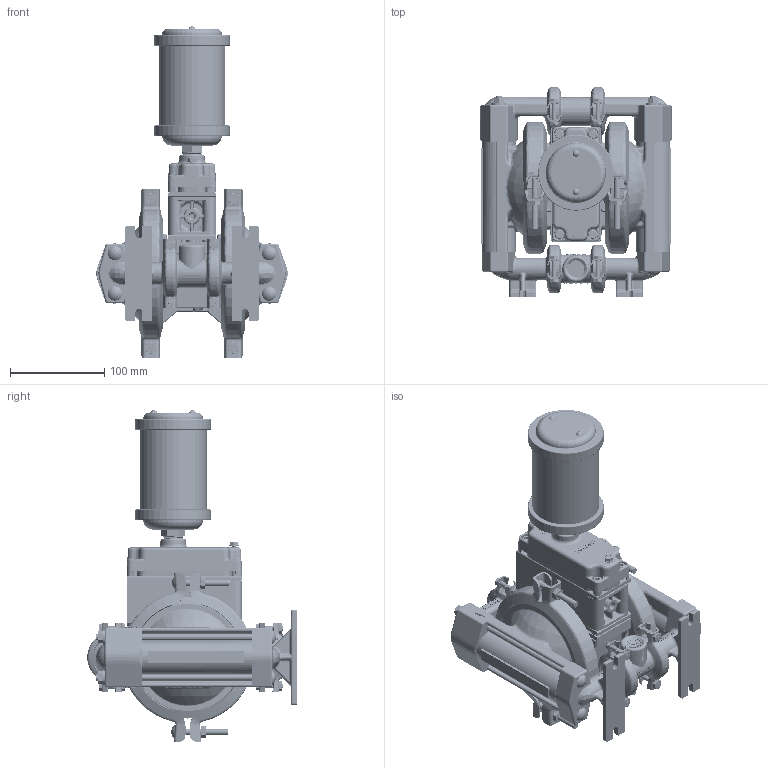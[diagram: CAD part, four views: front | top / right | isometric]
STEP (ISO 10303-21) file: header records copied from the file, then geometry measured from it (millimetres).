
FILE_DESCRIPTION (( 'STEP AP203' ), '1' );
FILE_NAME ('PS1_Clamped_SS_Top sld fill.STEP', '2022-05-18T12:32:04', ( '' ), ( '' ), 'SwSTEP 2.0', 'SolidWorks 2019', '' );
FILE_SCHEMA (( 'CONFIG_CONTROL_DESIGN' ));
Length unit declared in the file: millimetre
Products named in the file (1): PS1_Clamped_SS_Top sld fill
Bounding box: 203.61 x 222.76 x 352.55 mm (x, y, z)
Volume: 2992653.9 mm3; surface area: 411534.8 mm2
Topology: 1 solids, 25 shells, 10364 faces, 27666 edges, 17603 vertices
Faces by surface type: plane 6878, bspline 1488, cylinder 1025, cone 499, torus 301, sphere 173
Entity records: 555543 total; most frequent: CARTESIAN_POINT 314211, ORIENTED_EDGE 55258, DIRECTION 41831, EDGE_CURVE 27629, VERTEX_POINT 17590, VECTOR 17317, LINE 17317, AXIS2_PLACEMENT_3D 12257
